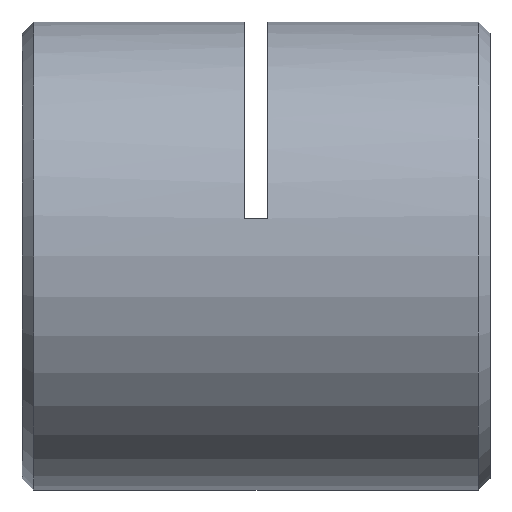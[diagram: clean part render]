
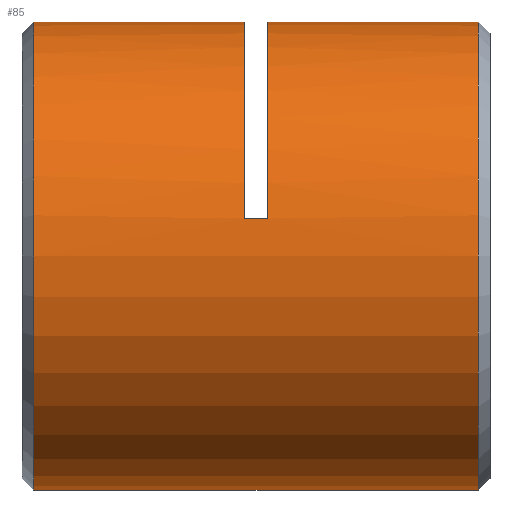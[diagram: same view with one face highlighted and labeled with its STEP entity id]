
A CAD part, left-side view. The second image highlights one B-rep face of the part: STEP entity #85.
In plain terms, the highlighted cylindrical face has radius 8 mm (diameter 16 mm), a partial arc.
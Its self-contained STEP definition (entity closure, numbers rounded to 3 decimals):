
#85 = ADVANCED_FACE ( 'NONE', ( #880 ), #3337, .T. ) ;
#140 = DIRECTION ( 'NONE',  ( 0., 1., 0. ) ) ;
#143 = CIRCLE ( 'NONE', #2044, 8. ) ;
#169 = AXIS2_PLACEMENT_3D ( 'NONE', #519, #2331, #2603 ) ;
#270 = DIRECTION ( 'NONE',  ( 0., 1., 0. ) ) ;
#337 = DIRECTION ( 'NONE',  ( 0., 1., 0. ) ) ;
#388 = VECTOR ( 'NONE', #1102, 1000. ) ;
#429 = CARTESIAN_POINT ( 'NONE',  ( 0., 7.85, 0. ) ) ;
#506 = CARTESIAN_POINT ( 'NONE',  ( 0., 0.25, 8. ) ) ;
#519 = CARTESIAN_POINT ( 'NONE',  ( 0., 8.65, 0. ) ) ;
#603 = EDGE_CURVE ( 'NONE', #3764, #2994, #2608, .T. ) ;
#663 = CARTESIAN_POINT ( 'NONE',  ( 0., 0.25, 8. ) ) ;
#672 = CARTESIAN_POINT ( 'NONE',  ( 0., 0.65, 0. ) ) ;
#673 = EDGE_CURVE ( 'NONE', #3608, #3957, #2420, .T. ) ;
#705 = DIRECTION ( 'NONE',  ( 0., 0., 1. ) ) ;
#805 = VERTEX_POINT ( 'NONE', #2048 ) ;
#871 = CARTESIAN_POINT ( 'NONE',  ( -7.897, 8.65, 1.28 ) ) ;
#880 = FACE_OUTER_BOUND ( 'NONE', #2821, .T. ) ;
#924 = CARTESIAN_POINT ( 'NONE',  ( 0., 0.65, 8. ) ) ;
#1040 = ORIENTED_EDGE ( 'NONE', *, *, #2183, .F. ) ;
#1102 = DIRECTION ( 'NONE',  ( 0., 1., 0. ) ) ;
#1190 = EDGE_CURVE ( 'NONE', #1242, #3259, #143, .T. ) ;
#1195 = LINE ( 'NONE', #2295, #1650 ) ;
#1242 = VERTEX_POINT ( 'NONE', #2884 ) ;
#1368 = AXIS2_PLACEMENT_3D ( 'NONE', #2709, #270, #3011 ) ;
#1381 = ORIENTED_EDGE ( 'NONE', *, *, #673, .T. ) ;
#1518 = ORIENTED_EDGE ( 'NONE', *, *, #1190, .F. ) ;
#1650 = VECTOR ( 'NONE', #2006, 1000. ) ;
#1691 = VECTOR ( 'NONE', #3718, 1000. ) ;
#1713 = ORIENTED_EDGE ( 'NONE', *, *, #603, .T. ) ;
#1716 = ORIENTED_EDGE ( 'NONE', *, *, #3804, .T. ) ;
#1874 = LINE ( 'NONE', #2637, #388 ) ;
#1879 = EDGE_CURVE ( 'NONE', #2435, #3259, #3828, .T. ) ;
#1994 = ORIENTED_EDGE ( 'NONE', *, *, #3351, .T. ) ;
#2006 = DIRECTION ( 'NONE',  ( 0., 1., 0. ) ) ;
#2044 = AXIS2_PLACEMENT_3D ( 'NONE', #429, #140, #2299 ) ;
#2048 = CARTESIAN_POINT ( 'NONE',  ( 0., 0.65, -8. ) ) ;
#2113 = AXIS2_PLACEMENT_3D ( 'NONE', #672, #337, #705 ) ;
#2176 = CARTESIAN_POINT ( 'NONE',  ( 0., 15.85, -8. ) ) ;
#2183 = EDGE_CURVE ( 'NONE', #805, #2994, #1195, .T. ) ;
#2271 = CARTESIAN_POINT ( 'NONE',  ( 0., 15.85, 0. ) ) ;
#2295 = CARTESIAN_POINT ( 'NONE',  ( 0., 0.25, -8. ) ) ;
#2299 = DIRECTION ( 'NONE',  ( 0., 0., 1. ) ) ;
#2331 = DIRECTION ( 'NONE',  ( 0., 1., 0. ) ) ;
#2384 = ORIENTED_EDGE ( 'NONE', *, *, #2901, .T. ) ;
#2385 = CARTESIAN_POINT ( 'NONE',  ( 0., 8.65, 8. ) ) ;
#2420 = CIRCLE ( 'NONE', #169, 8. ) ;
#2435 = VERTEX_POINT ( 'NONE', #924 ) ;
#2603 = DIRECTION ( 'NONE',  ( 0., 0., 1. ) ) ;
#2608 = CIRCLE ( 'NONE', #2724, 8. ) ;
#2637 = CARTESIAN_POINT ( 'NONE',  ( -7.897, 8.25, 1.28 ) ) ;
#2709 = CARTESIAN_POINT ( 'NONE',  ( 0., 0.25, 0. ) ) ;
#2724 = AXIS2_PLACEMENT_3D ( 'NONE', #2271, #3130, #3118 ) ;
#2821 = EDGE_LOOP ( 'NONE', ( #1040, #2384, #3913, #1518, #1716, #1381, #1994, #1713 ) ) ;
#2884 = CARTESIAN_POINT ( 'NONE',  ( -7.897, 7.85, 1.28 ) ) ;
#2901 = EDGE_CURVE ( 'NONE', #805, #2435, #3094, .T. ) ;
#2994 = VERTEX_POINT ( 'NONE', #2176 ) ;
#3011 = DIRECTION ( 'NONE',  ( 0., 0., 1. ) ) ;
#3043 = LINE ( 'NONE', #506, #3363 ) ;
#3094 = CIRCLE ( 'NONE', #2113, 8. ) ;
#3118 = DIRECTION ( 'NONE',  ( 0., 0., -1. ) ) ;
#3130 = DIRECTION ( 'NONE',  ( 0., -1., 0. ) ) ;
#3259 = VERTEX_POINT ( 'NONE', #3553 ) ;
#3337 = CYLINDRICAL_SURFACE ( 'NONE', #1368, 8. ) ;
#3351 = EDGE_CURVE ( 'NONE', #3957, #3764, #3043, .T. ) ;
#3363 = VECTOR ( 'NONE', #3845, 1000. ) ;
#3553 = CARTESIAN_POINT ( 'NONE',  ( 0., 7.85, 8. ) ) ;
#3608 = VERTEX_POINT ( 'NONE', #871 ) ;
#3718 = DIRECTION ( 'NONE',  ( 0., 1., 0. ) ) ;
#3764 = VERTEX_POINT ( 'NONE', #3824 ) ;
#3804 = EDGE_CURVE ( 'NONE', #1242, #3608, #1874, .T. ) ;
#3824 = CARTESIAN_POINT ( 'NONE',  ( 0., 15.85, 8. ) ) ;
#3828 = LINE ( 'NONE', #663, #1691 ) ;
#3845 = DIRECTION ( 'NONE',  ( 0., 1., 0. ) ) ;
#3913 = ORIENTED_EDGE ( 'NONE', *, *, #1879, .T. ) ;
#3957 = VERTEX_POINT ( 'NONE', #2385 ) ;
